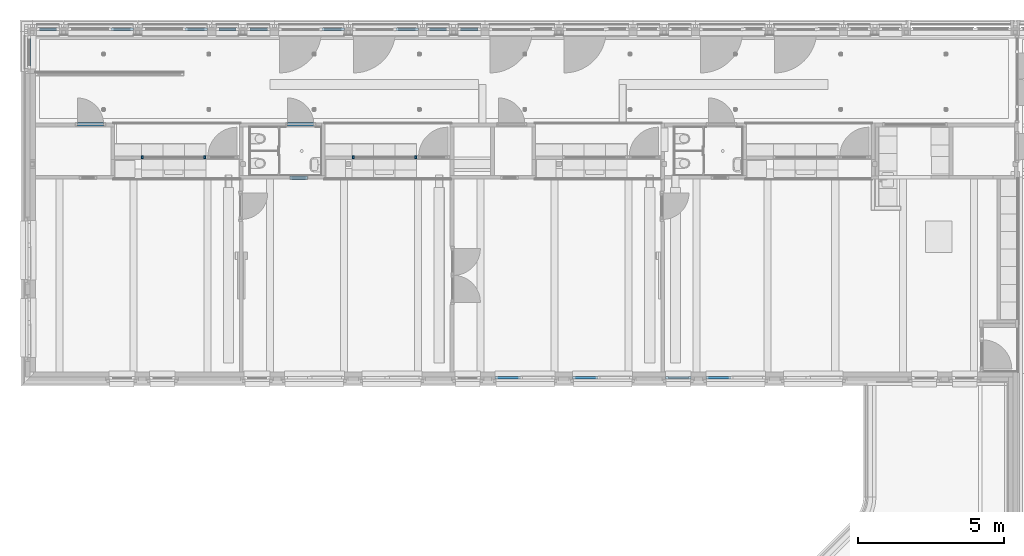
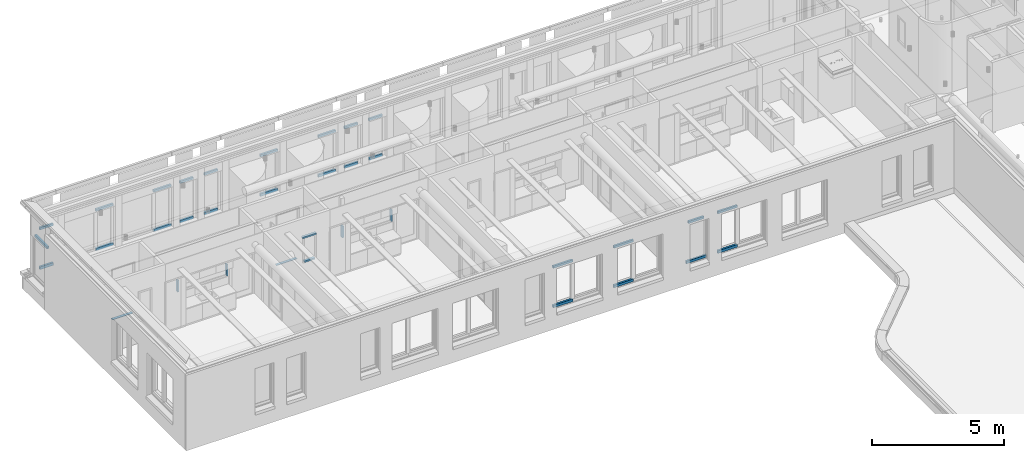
# One storey, part 28 of 128: 35 members, 19 elements without a shape of their own.
"""IFC2X3 building model written with IfcOpenShell, lengths in millimetres."""

from ifc_helpers import new_model, entity, si_unit, converted_unit, derived_unit, direction, frame, frame_2d, origin, origin_2d_with_axis, place, context, subcontext, project, spatial, rectangle, extrude, source, transform, mapped, material, type_object, type_shapes, element, aggregate, save


model = new_model("IFC2X3")

# Units and contexts
model_context = context("Model", 3, precision=0.01, world=origin(), true_north=direction((6.123031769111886e-17, 1.0)))
body_context = subcontext(model_context, "Body", "Model", "MODEL_VIEW")
ifc_project = project(units=[si_unit("LENGTHUNIT", "METRE", prefix="MILLI"), si_unit("AREAUNIT", "SQUARE_METRE"), si_unit("VOLUMEUNIT", "CUBIC_METRE"), converted_unit("PLANEANGLEUNIT", "DEGREE", entity("IfcRatioMeasure", 0.017453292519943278), si_unit("PLANEANGLEUNIT", "RADIAN"), dimensions=[0, 0, 0, 0, 0, 0, 0]), si_unit("MASSUNIT", "GRAM", prefix="KILO"), derived_unit("MASSDENSITYUNIT", [(si_unit("MASSUNIT", "GRAM", prefix="KILO"), 1), (si_unit("LENGTHUNIT", "METRE"), -3)]), derived_unit("IONCONCENTRATIONUNIT", [(si_unit("MASSUNIT", "GRAM", prefix="KILO"), 1), (si_unit("LENGTHUNIT", "METRE"), -3)]), derived_unit("MOMENTOFINERTIAUNIT", [(si_unit("LENGTHUNIT", "METRE"), 4)]), si_unit("TIMEUNIT", "SECOND"), si_unit("FREQUENCYUNIT", "HERTZ"), si_unit("THERMODYNAMICTEMPERATUREUNIT", "DEGREE_CELSIUS"), derived_unit("THERMALTRANSMITTANCEUNIT", [(si_unit("MASSUNIT", "GRAM", prefix="KILO"), 1), (si_unit("THERMODYNAMICTEMPERATUREUNIT", "KELVIN"), -1), (si_unit("TIMEUNIT", "SECOND"), -3)]), derived_unit("THERMALCONDUCTANCEUNIT", [(si_unit("MASSUNIT", "GRAM", prefix="KILO"), 1), (si_unit("THERMODYNAMICTEMPERATUREUNIT", "KELVIN"), -1), (si_unit("TIMEUNIT", "SECOND"), -3), (si_unit("LENGTHUNIT", "METRE"), 1)]), derived_unit("VOLUMETRICFLOWRATEUNIT", [(si_unit("LENGTHUNIT", "METRE"), 3), (si_unit("TIMEUNIT", "SECOND"), -1)]), derived_unit("MASSFLOWRATEUNIT", [(si_unit("MASSUNIT", "GRAM", prefix="KILO"), 1), (si_unit("TIMEUNIT", "SECOND"), -1)]), derived_unit("ROTATIONALFREQUENCYUNIT", [(si_unit("TIMEUNIT", "SECOND"), -1)]), si_unit("ELECTRICCURRENTUNIT", "AMPERE"), si_unit("ELECTRICVOLTAGEUNIT", "VOLT"), si_unit("POWERUNIT", "WATT"), si_unit("FORCEUNIT", "NEWTON", prefix="KILO"), si_unit("ILLUMINANCEUNIT", "LUX"), si_unit("LUMINOUSFLUXUNIT", "LUMEN"), si_unit("LUMINOUSINTENSITYUNIT", "CANDELA"), derived_unit("USERDEFINED", [(si_unit("MASSUNIT", "GRAM", prefix="KILO"), -1), (si_unit("LENGTHUNIT", "METRE"), -2), (si_unit("TIMEUNIT", "SECOND"), 3), (si_unit("LUMINOUSFLUXUNIT", "LUMEN"), 1)]), derived_unit("USERDEFINED", [(si_unit("MASSUNIT", "GRAM", prefix="KILO"), 1), (si_unit("TIMEUNIT", "SECOND"), -3), (si_unit("LENGTHUNIT", "METRE"), 3), (si_unit("ELECTRICCURRENTUNIT", "AMPERE"), -2)]), derived_unit("SOUNDPOWERUNIT", [(si_unit("MASSUNIT", "GRAM", prefix="KILO"), 1), (si_unit("TIMEUNIT", "SECOND"), -3), (si_unit("LENGTHUNIT", "METRE"), 2)]), derived_unit("SOUNDPRESSUREUNIT", [(si_unit("MASSUNIT", "GRAM", prefix="KILO"), 1), (si_unit("LENGTHUNIT", "METRE"), -1), (si_unit("TIMEUNIT", "SECOND"), -2)]), derived_unit("LINEARVELOCITYUNIT", [(si_unit("LENGTHUNIT", "METRE"), 1), (si_unit("TIMEUNIT", "SECOND"), -1)]), si_unit("PRESSUREUNIT", "PASCAL"), derived_unit("USERDEFINED", [(si_unit("MASSUNIT", "GRAM", prefix="KILO"), 1), (si_unit("LENGTHUNIT", "METRE"), -2), (si_unit("TIMEUNIT", "SECOND"), -2)]), derived_unit("LINEARFORCEUNIT", [(si_unit("MASSUNIT", "GRAM", prefix="KILO"), 1), (si_unit("TIMEUNIT", "SECOND"), -2)]), derived_unit("PLANARFORCEUNIT", [(si_unit("MASSUNIT", "GRAM", prefix="KILO"), 1), (si_unit("LENGTHUNIT", "METRE"), -1), (si_unit("TIMEUNIT", "SECOND"), -2)]), derived_unit("SPECIFICHEATCAPACITYUNIT", [(si_unit("THERMODYNAMICTEMPERATUREUNIT", "KELVIN"), -1), (si_unit("LENGTHUNIT", "METRE"), 2), (si_unit("TIMEUNIT", "SECOND"), -2)]), derived_unit("HEATINGVALUEUNIT", [(si_unit("LENGTHUNIT", "METRE"), 2), (si_unit("TIMEUNIT", "SECOND"), -2)]), derived_unit("VAPORPERMEABILITYUNIT", [(si_unit("LENGTHUNIT", "METRE"), -1), (si_unit("TIMEUNIT", "SECOND"), 1)]), derived_unit("DYNAMICVISCOSITYUNIT", [(si_unit("MASSUNIT", "GRAM", prefix="KILO"), 1), (si_unit("TIMEUNIT", "SECOND"), -1), (si_unit("LENGTHUNIT", "METRE"), -1)]), derived_unit("THERMALEXPANSIONCOEFFICIENTUNIT", [(si_unit("THERMODYNAMICTEMPERATUREUNIT", "KELVIN"), -1)]), derived_unit("MODULUSOFELASTICITYUNIT", [(si_unit("MASSUNIT", "GRAM", prefix="KILO"), 1), (si_unit("LENGTHUNIT", "METRE"), -1), (si_unit("TIMEUNIT", "SECOND"), -2)]), derived_unit("ISOTHERMALMOISTURECAPACITYUNIT", [(si_unit("LENGTHUNIT", "METRE"), 3), (si_unit("MASSUNIT", "GRAM", prefix="KILO"), -1)]), derived_unit("MOISTUREDIFFUSIVITYUNIT", [(si_unit("TIMEUNIT", "SECOND"), -1), (si_unit("LENGTHUNIT", "METRE"), 2)])], contexts=[model_context])

# Site, building, storey
site_placement = place(None, frame((0.0, 300.0, 0.0)))
site = spatial("IfcSite", under=ifc_project, at=site_placement, Name="<Kadastrale nummers>", CompositionType="ELEMENT")
building_placement = place(site_placement, origin())
building = spatial("IfcBuilding", under=site, at=building_placement, CompositionType="ELEMENT")
storey_placement = place(building_placement, frame((0.0, 0.0, 3560.0000331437)))
storey = spatial("IfcBuildingStorey", under=building, at=storey_placement, Name="01 eerste verdieping", CompositionType="ELEMENT", Elevation=3560.0000331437)

# Curtain wall, member
curtain_wall_type_1 = type_object("IfcCurtainWallType", Name="Curtain Wall:Merk H01", PredefinedType="NOTDEFINED")
curtain_wall_1_placement = place(storey_placement, frame((0.0, 0.0, -3560.0000331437)))
curtain_wall_1 = element("IfcCurtainWall", 1, at=curtain_wall_1_placement, inside=storey, type_object=curtain_wall_type_1, Name="Curtain Wall:Merk H01", ObjectType="Curtain Wall:Merk H01")
ifc_material_1 = material(Name="ISR_Kunststof_grijs")
member_type_1 = type_object("IfcMemberType", Name="Rectangular Mullion:31_CWM_020x114", PredefinedType="MULLION", material=ifc_material_1)
shared_shape_1 = source(origin(), body_context, "Body", "SweptSolid", [
    extrude(rectangle(XDim=113.99999999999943, YDim=20.0, at=origin_2d_with_axis()), frame((-10.0, 57.0, -900.0), z_axis=(0.0, 0.0, 1.0), x_axis=(0.0, -1.0, 0.0)), (0.0, 0.0, 1.0), 899.999999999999),
])
type_shapes(member_type_1, [shared_shape_1])
member_1_placement = place(curtain_wall_1_placement, frame((5433.0, 46606.0, 3650.00003501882), z_axis=(1.0, 0.0, 0.0), x_axis=(0.0, 0.0, -1.0)))
member_1 = element("IfcMember", 2, at=member_1_placement, type_object=member_type_1, material=ifc_material_1, Name="Rectangular Mullion:31_CWM_020x114", ObjectType="Rectangular Mullion:31_CWM_020x114", context=body_context, shape_type="MappedRepresentation", body=[
    mapped(shared_shape_1, transform((0.0, 0.0, 0.0), scale=1.0)),
])
aggregate(curtain_wall_1, [member_1])

curtain_wall_2_placement = place(storey_placement, frame((0.0, 0.0, -3560.0000331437)))
curtain_wall_2 = element("IfcCurtainWall", 3, at=curtain_wall_2_placement, inside=storey, type_object=curtain_wall_type_1, Name="Curtain Wall:Merk H01", ObjectType="Curtain Wall:Merk H01")
member_2_placement = place(curtain_wall_2_placement, frame((12619.001376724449, 46606.0, 3650.00003501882), z_axis=(1.0, 0.0, 0.0), x_axis=(0.0, 0.0, -1.0)))
member_2 = element("IfcMember", 4, at=member_2_placement, type_object=member_type_1, material=ifc_material_1, Name="Rectangular Mullion:31_CWM_020x114", ObjectType="Rectangular Mullion:31_CWM_020x114", context=body_context, shape_type="MappedRepresentation", body=[
    mapped(shared_shape_1, transform((0.0, 0.0, 0.0), scale=1.0)),
])
aggregate(curtain_wall_2, [member_2])

curtain_wall_type_2 = type_object("IfcCurtainWallType", Name="Curtain Wall:Merk H13", PredefinedType="NOTDEFINED")
curtain_wall_3_placement = place(storey_placement, frame((0.0, 0.0, -3560.0000331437)))
curtain_wall_3 = element("IfcCurtainWall", 5, at=curtain_wall_3_placement, inside=storey, type_object=curtain_wall_type_2, Name="Curtain Wall:Merk H13", ObjectType="Curtain Wall:Merk H13")
ifc_material_2 = material(Name="ISR_HPL")
member_type_2 = type_object("IfcMemberType", Name="Rectangular Mullion:31_CWM_067x114", PredefinedType="MULLION", material=ifc_material_2)
shared_shape_2 = source(origin(), body_context, "Body", "SweptSolid", [
    extrude(rectangle(XDim=113.99999999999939, YDim=67.0, at=origin_2d_with_axis()), frame((-33.5, -57.0, -533.0), z_axis=(0.0, 0.0, 1.0), x_axis=(0.0, -1.0, 0.0)), (0.0, 0.0, 1.0), 533.0000000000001),
])
type_shapes(member_type_2, [shared_shape_2])
member_3_placement = place(curtain_wall_3_placement, frame((8931.0, 45476.0, 4850.0000331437), z_axis=(0.0, 0.0, -1.0), x_axis=(1.0, 0.0, 0.0)))
member_3 = element("IfcMember", 6, at=member_3_placement, type_object=member_type_2, material=ifc_material_2, Name="Rectangular Mullion:31_CWM_067x114", ObjectType="Rectangular Mullion:31_CWM_067x114", context=body_context, shape_type="MappedRepresentation", body=[
    mapped(shared_shape_2, transform((0.0, 0.0, 0.0), scale=1.0)),
])

curtain_wall_4_placement = place(storey_placement, frame((0.0, 0.0, -3560.0000331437)))
curtain_wall_4 = element("IfcCurtainWall", 7, at=curtain_wall_4_placement, inside=storey, type_object=curtain_wall_type_2, Name="Curtain Wall:Merk H13", ObjectType="Curtain Wall:Merk H13")
member_4_placement = place(curtain_wall_4_placement, frame((16136.0, 45476.0, 4850.0000331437), z_axis=(0.0, 0.0, -1.0), x_axis=(1.0, 0.0, 0.0)))
member_4 = element("IfcMember", 8, at=member_4_placement, type_object=member_type_2, material=ifc_material_2, Name="Rectangular Mullion:31_CWM_067x114", ObjectType="Rectangular Mullion:31_CWM_067x114", context=body_context, shape_type="MappedRepresentation", body=[
    mapped(shared_shape_2, transform((0.0, 0.0, 0.0), scale=1.0)),
])

# Member
member_type_3 = type_object("IfcMemberType", Name="Rectangular Mullion:31_CWM_067x114", PredefinedType="MULLION", material=ifc_material_2)
shared_shape_3 = source(origin(), body_context, "Body", "SweptSolid", [
    extrude(rectangle(XDim=113.9999999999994, YDim=67.0, at=frame_2d((1.0658141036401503e-14, 0.0), x_axis=(1.0, 0.0))), frame((-33.5, -57.0, -533.0), z_axis=(0.0, 0.0, 1.0), x_axis=(0.0, -1.0, 0.0)), (0.0, 0.0, 1.0), 533.0000000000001),
])
type_shapes(member_type_3, [shared_shape_3])
member_5_placement = place(curtain_wall_3_placement, frame((6726.0, 45476.0, 5383.0000331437), z_axis=(0.0, 0.0, 1.0), x_axis=(-1.0, 0.0, 0.0)))
member_5 = element("IfcMember", 9, at=member_5_placement, type_object=member_type_3, material=ifc_material_2, Name="Rectangular Mullion:31_CWM_067x114", ObjectType="Rectangular Mullion:31_CWM_067x114", context=body_context, shape_type="MappedRepresentation", body=[
    mapped(shared_shape_3, transform((0.0, 0.0, 0.0), scale=1.0)),
])

aggregate(curtain_wall_3, [member_3, member_5])

member_6_placement = place(curtain_wall_4_placement, frame((13931.0, 45476.0, 5383.0000331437), z_axis=(0.0, 0.0, 1.0), x_axis=(-1.0, 0.0, 0.0)))
member_6 = element("IfcMember", 10, at=member_6_placement, type_object=member_type_3, material=ifc_material_2, Name="Rectangular Mullion:31_CWM_067x114", ObjectType="Rectangular Mullion:31_CWM_067x114", context=body_context, shape_type="MappedRepresentation", body=[
    mapped(shared_shape_3, transform((0.0, 0.0, 0.0), scale=1.0)),
])

aggregate(curtain_wall_4, [member_4, member_6])

# Curtain wall, members
curtain_wall_type_3 = type_object("IfcCurtainWallType", Name="Curtain Wall:Merk H05", PredefinedType="NOTDEFINED")
curtain_wall_5_placement = place(storey_placement, frame((0.0, 0.0, -3560.0000331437)))
curtain_wall_5 = element("IfcCurtainWall", 11, at=curtain_wall_5_placement, inside=storey, type_object=curtain_wall_type_3, Name="Curtain Wall:Merk H05", ObjectType="Curtain Wall:Merk H05")
member_type_4 = type_object("IfcMemberType", Name="Rectangular Mullion:31_CWM_067x114", PredefinedType="MULLION", material=ifc_material_2)
shared_shape_4 = source(origin(), body_context, "Body", "SweptSolid", [
    extrude(rectangle(XDim=113.9999999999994, YDim=67.0, at=frame_2d((1.0658141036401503e-14, 0.0), x_axis=(1.0, 0.0))), frame((-33.5, -57.0, -600.0), z_axis=(0.0, 0.0, 1.0), x_axis=(0.0, -1.0, 0.0)), (0.0, 0.0, 1.0), 600.0000000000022),
])
type_shapes(member_type_4, [shared_shape_4])
member_7_placement = place(curtain_wall_5_placement, frame((11805.0, 44889.0, 6040.0000331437), z_axis=(-1.0, 0.0, 0.0), x_axis=(0.0, 0.0, 1.0)))
member_7 = element("IfcMember", 12, at=member_7_placement, type_object=member_type_4, material=ifc_material_2, Name="Rectangular Mullion:31_CWM_067x114", ObjectType="Rectangular Mullion:31_CWM_067x114", context=body_context, shape_type="MappedRepresentation", body=[
    mapped(shared_shape_4, transform((0.0, 0.0, 0.0), scale=1.0)),
])
member_type_5 = type_object("IfcMemberType", Name="Rectangular Mullion:31_CWM_067x114", PredefinedType="MULLION", material=ifc_material_2)
shared_shape_5 = source(origin(), body_context, "Body", "SweptSolid", [
    extrude(rectangle(XDim=113.9999999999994, YDim=67.0, at=frame_2d((1.0658141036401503e-14, 0.0), x_axis=(1.0, 0.0))), frame((-33.5, -57.0, -466.0), z_axis=(0.0, 0.0, 1.0), x_axis=(0.0, -1.0, 0.0)), (0.0, 0.0, 1.0), 466.0000000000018),
])
type_shapes(member_type_5, [shared_shape_5])
member_8_placement = place(curtain_wall_5_placement, frame((12338.0, 44889.0, 4850.0000331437), z_axis=(1.0, 0.0, 0.0), x_axis=(0.0, 0.0, -1.0)))
member_8 = element("IfcMember", 13, at=member_8_placement, type_object=member_type_5, material=ifc_material_2, Name="Rectangular Mullion:31_CWM_067x114", ObjectType="Rectangular Mullion:31_CWM_067x114", context=body_context, shape_type="MappedRepresentation", body=[
    mapped(shared_shape_5, transform((0.0, 0.0, 0.0), scale=1.0)),
])
aggregate(curtain_wall_5, [member_7, member_8])

# Curtain wall, member
curtain_wall_type_4 = type_object("IfcCurtainWallType", Name="Curtain Wall:K_29", PredefinedType="NOTDEFINED")
curtain_wall_6_placement = place(storey_placement, frame((0.0, 0.0, -3560.0000331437)))
curtain_wall_6 = element("IfcCurtainWall", 14, at=curtain_wall_6_placement, inside=storey, type_object=curtain_wall_type_4, Name="Curtain Wall:K_29", ObjectType="Curtain Wall:K_29")
ifc_material_3 = material(Name="ISR_Kunststof_RAL7006")
member_type_6 = type_object("IfcMemberType", Name="Rectangular Mullion:100x83 Gealan Kubus", PredefinedType="MULLION", material=ifc_material_3)
shared_shape_6 = source(origin(), body_context, "Body", "SweptSolid", [
    extrude(rectangle(XDim=83.0, YDim=100.0, at=origin_2d_with_axis()), frame((-50.0, 41.5, -590.0), z_axis=(0.0, 0.0, 1.0), x_axis=(0.0, -1.0, 0.0)), (0.0, 0.0, 1.0), 590.0000000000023),
])
type_shapes(member_type_6, [shared_shape_6])
member_9_placement = place(curtain_wall_6_placement, frame((3240.0, 49868.0, 6390.0), z_axis=(-1.0, 0.0, 0.0), x_axis=(0.0, 0.0, 1.0)))
member_9 = element("IfcMember", 15, at=member_9_placement, type_object=member_type_6, material=ifc_material_3, Name="Rectangular Mullion:100x83 Gealan Kubus", ObjectType="Rectangular Mullion:100x83 Gealan Kubus", context=body_context, shape_type="MappedRepresentation", body=[
    mapped(shared_shape_6, transform((0.0, 0.0, 0.0), scale=1.0)),
])

curtain_wall_7_placement = place(storey_placement, frame((0.0, 0.0, -3560.0000331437)))
curtain_wall_7 = element("IfcCurtainWall", 16, at=curtain_wall_7_placement, inside=storey, type_object=curtain_wall_type_4, Name="Curtain Wall:K_29", ObjectType="Curtain Wall:K_29")
member_10_placement = place(curtain_wall_7_placement, frame((17640.0, 49868.0, 6390.0), z_axis=(-1.0, 0.0, 0.0), x_axis=(0.0, 0.0, 1.0)))
member_10 = element("IfcMember", 17, at=member_10_placement, type_object=member_type_6, material=ifc_material_3, Name="Rectangular Mullion:100x83 Gealan Kubus", ObjectType="Rectangular Mullion:100x83 Gealan Kubus", context=body_context, shape_type="MappedRepresentation", body=[
    mapped(shared_shape_6, transform((0.0, 0.0, 0.0), scale=1.0)),
])

curtain_wall_8_placement = place(storey_placement, frame((0.0, 0.0, -3560.0000331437)))
curtain_wall_8 = element("IfcCurtainWall", 18, at=curtain_wall_8_placement, inside=storey, type_object=curtain_wall_type_4, Name="Curtain Wall:K_29", ObjectType="Curtain Wall:K_29")
member_11_placement = place(curtain_wall_8_placement, frame((16570.0, 49868.0, 6390.0), z_axis=(-1.0, 0.0, 0.0), x_axis=(0.0, 0.0, 1.0)))
member_11 = element("IfcMember", 19, at=member_11_placement, type_object=member_type_6, material=ifc_material_3, Name="Rectangular Mullion:100x83 Gealan Kubus", ObjectType="Rectangular Mullion:100x83 Gealan Kubus", context=body_context, shape_type="MappedRepresentation", body=[
    mapped(shared_shape_6, transform((0.0, 0.0, 0.0), scale=1.0)),
])

curtain_wall_9_placement = place(storey_placement, frame((0.0, 0.0, -3560.0000331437)))
curtain_wall_9 = element("IfcCurtainWall", 20, at=curtain_wall_9_placement, inside=storey, type_object=curtain_wall_type_4, Name="Curtain Wall:K_29", ObjectType="Curtain Wall:K_29")
member_12_placement = place(curtain_wall_9_placement, frame((10440.0, 49868.0, 6390.0), z_axis=(-1.0, 0.0, 0.0), x_axis=(0.0, 0.0, 1.0)))
member_12 = element("IfcMember", 21, at=member_12_placement, type_object=member_type_6, material=ifc_material_3, Name="Rectangular Mullion:100x83 Gealan Kubus", ObjectType="Rectangular Mullion:100x83 Gealan Kubus", context=body_context, shape_type="MappedRepresentation", body=[
    mapped(shared_shape_6, transform((0.0, 0.0, 0.0), scale=1.0)),
])

curtain_wall_10_placement = place(storey_placement, frame((0.0, 0.0, -3560.0000331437)))
curtain_wall_10 = element("IfcCurtainWall", 22, at=curtain_wall_10_placement, inside=storey, type_object=curtain_wall_type_4, Name="Curtain Wall:K_29", ObjectType="Curtain Wall:K_29")
member_13_placement = place(curtain_wall_10_placement, frame((9370.0, 49868.0, 6390.0), z_axis=(-1.0, 0.0, 0.0), x_axis=(0.0, 0.0, 1.0)))
member_13 = element("IfcMember", 23, at=member_13_placement, type_object=member_type_6, material=ifc_material_3, Name="Rectangular Mullion:100x83 Gealan Kubus", ObjectType="Rectangular Mullion:100x83 Gealan Kubus", context=body_context, shape_type="MappedRepresentation", body=[
    mapped(shared_shape_6, transform((0.0, 0.0, 0.0), scale=1.0)),
])

# Member
member_type_7 = type_object("IfcMemberType", Name="Rectangular Mullion:120x83 Gealan Kubus", PredefinedType="MULLION", material=ifc_material_3)
shared_shape_7 = source(origin(), body_context, "Body", "SweptSolid", [
    extrude(rectangle(XDim=83.00000000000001, YDim=120.0, at=origin_2d_with_axis()), frame((-60.0, 41.50000000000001, -590.0), z_axis=(0.0, 0.0, 1.0), x_axis=(0.0, -1.0, 0.0)), (0.0, 0.0, 1.0), 590.0000000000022),
])
type_shapes(member_type_7, [shared_shape_7])
member_14_placement = place(curtain_wall_6_placement, frame((3830.0, 49868.0, 4460.000035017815), z_axis=(1.0, 0.0, 0.0), x_axis=(0.0, 0.0, -1.0)))
member_14 = element("IfcMember", 24, at=member_14_placement, type_object=member_type_7, material=ifc_material_3, Name="Rectangular Mullion:120x83 Gealan Kubus", ObjectType="Rectangular Mullion:120x83 Gealan Kubus", context=body_context, shape_type="MappedRepresentation", body=[
    mapped(shared_shape_7, transform((0.0, 0.0, 0.0), scale=1.0)),
])

aggregate(curtain_wall_6, [member_9, member_14])

member_15_placement = place(curtain_wall_7_placement, frame((18230.0, 49868.0, 4460.000035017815), z_axis=(1.0, 0.0, 0.0), x_axis=(0.0, 0.0, -1.0)))
member_15 = element("IfcMember", 25, at=member_15_placement, type_object=member_type_7, material=ifc_material_3, Name="Rectangular Mullion:120x83 Gealan Kubus", ObjectType="Rectangular Mullion:120x83 Gealan Kubus", context=body_context, shape_type="MappedRepresentation", body=[
    mapped(shared_shape_7, transform((0.0, 0.0, 0.0), scale=1.0)),
])

aggregate(curtain_wall_7, [member_10, member_15])

member_16_placement = place(curtain_wall_8_placement, frame((17160.0, 49868.0, 4460.000035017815), z_axis=(1.0, 0.0, 0.0), x_axis=(0.0, 0.0, -1.0)))
member_16 = element("IfcMember", 26, at=member_16_placement, type_object=member_type_7, material=ifc_material_3, Name="Rectangular Mullion:120x83 Gealan Kubus", ObjectType="Rectangular Mullion:120x83 Gealan Kubus", context=body_context, shape_type="MappedRepresentation", body=[
    mapped(shared_shape_7, transform((0.0, 0.0, 0.0), scale=1.0)),
])

aggregate(curtain_wall_8, [member_11, member_16])

member_17_placement = place(curtain_wall_9_placement, frame((11030.0, 49868.0, 4460.000035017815), z_axis=(1.0, 0.0, 0.0), x_axis=(0.0, 0.0, -1.0)))
member_17 = element("IfcMember", 27, at=member_17_placement, type_object=member_type_7, material=ifc_material_3, Name="Rectangular Mullion:120x83 Gealan Kubus", ObjectType="Rectangular Mullion:120x83 Gealan Kubus", context=body_context, shape_type="MappedRepresentation", body=[
    mapped(shared_shape_7, transform((0.0, 0.0, 0.0), scale=1.0)),
])

aggregate(curtain_wall_9, [member_12, member_17])

member_18_placement = place(curtain_wall_10_placement, frame((9960.0, 49868.0, 4460.000035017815), z_axis=(1.0, 0.0, 0.0), x_axis=(0.0, 0.0, -1.0)))
member_18 = element("IfcMember", 28, at=member_18_placement, type_object=member_type_7, material=ifc_material_3, Name="Rectangular Mullion:120x83 Gealan Kubus", ObjectType="Rectangular Mullion:120x83 Gealan Kubus", context=body_context, shape_type="MappedRepresentation", body=[
    mapped(shared_shape_7, transform((0.0, 0.0, 0.0), scale=1.0)),
])

aggregate(curtain_wall_10, [member_13, member_18])

# Curtain wall, member
curtain_wall_type_5 = type_object("IfcCurtainWallType", Name="Curtain Wall:K_25", PredefinedType="NOTDEFINED")
curtain_wall_11_placement = place(storey_placement, frame((0.0, 0.0, -3560.0000331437)))
curtain_wall_11 = element("IfcCurtainWall", 29, at=curtain_wall_11_placement, inside=storey, type_object=curtain_wall_type_5, Name="Curtain Wall:K_25", ObjectType="Curtain Wall:K_25")
member_type_8 = type_object("IfcMemberType", Name="Rectangular Mullion:100x83 Gealan Kubus", PredefinedType="MULLION", material=ifc_material_3)
shared_shape_8 = source(origin(), body_context, "Body", "SweptSolid", [
    extrude(rectangle(XDim=83.0, YDim=100.0, at=origin_2d_with_axis()), frame((-50.0, -41.5, -945.0), z_axis=(0.0, 0.0, 1.0), x_axis=(0.0, -1.0, 0.0)), (0.0, 0.0, 1.0), 944.9999999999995),
])
type_shapes(member_type_8, [shared_shape_8])
member_19_placement = place(curtain_wall_11_placement, frame((2931.9986232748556, 49590.0, 6390.0), z_axis=(0.0, 1.0, 0.0), x_axis=(0.0, 0.0, 1.0)))
member_19 = element("IfcMember", 30, at=member_19_placement, type_object=member_type_8, material=ifc_material_3, Name="Rectangular Mullion:100x83 Gealan Kubus", ObjectType="Rectangular Mullion:100x83 Gealan Kubus", context=body_context, shape_type="MappedRepresentation", body=[
    mapped(shared_shape_8, transform((0.0, 0.0, 0.0), scale=1.0)),
])
aggregate(curtain_wall_11, [member_19])

curtain_wall_type_6 = type_object("IfcCurtainWallType", Name="Curtain Wall:K_22", PredefinedType="NOTDEFINED")
curtain_wall_12_placement = place(storey_placement, frame((0.0, 0.0, -3560.0000331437)))
curtain_wall_12 = element("IfcCurtainWall", 31, at=curtain_wall_12_placement, inside=storey, type_object=curtain_wall_type_6, Name="Curtain Wall:K_22", ObjectType="Curtain Wall:K_22")
member_type_9 = type_object("IfcMemberType", Name="Rectangular Mullion:120x83 Gealan Kubus", PredefinedType="MULLION", material=ifc_material_3)
shared_shape_9 = source(origin(), body_context, "Body", "SweptSolid", [
    extrude(rectangle(XDim=83.00000000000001, YDim=120.0, at=origin_2d_with_axis()), frame((-60.0, 41.50000000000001, -767.0), z_axis=(0.0, 0.0, 1.0), x_axis=(0.0, -1.0, 0.0)), (0.0, 0.0, 1.0), 766.9999999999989),
])
type_shapes(member_type_9, [shared_shape_9])
member_20_placement = place(curtain_wall_12_placement, frame((16190.0, 49868.0, 4460.000035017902), z_axis=(1.0, 0.0, 0.0), x_axis=(0.0, 0.0, -1.0)))
member_20 = element("IfcMember", 32, at=member_20_placement, type_object=member_type_9, material=ifc_material_3, Name="Rectangular Mullion:120x83 Gealan Kubus", ObjectType="Rectangular Mullion:120x83 Gealan Kubus", context=body_context, shape_type="MappedRepresentation", body=[
    mapped(shared_shape_9, transform((0.0, 0.0, 0.0), scale=1.0)),
])

curtain_wall_13_placement = place(storey_placement, frame((0.0, 0.0, -3560.0000331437)))
curtain_wall_13 = element("IfcCurtainWall", 33, at=curtain_wall_13_placement, inside=storey, type_object=curtain_wall_type_6, Name="Curtain Wall:K_22", ObjectType="Curtain Wall:K_22")
member_21_placement = place(curtain_wall_13_placement, frame((13660.0, 49868.0, 4460.000035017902), z_axis=(1.0, 0.0, 0.0), x_axis=(0.0, 0.0, -1.0)))
member_21 = element("IfcMember", 34, at=member_21_placement, type_object=member_type_9, material=ifc_material_3, Name="Rectangular Mullion:120x83 Gealan Kubus", ObjectType="Rectangular Mullion:120x83 Gealan Kubus", context=body_context, shape_type="MappedRepresentation", body=[
    mapped(shared_shape_9, transform((0.0, 0.0, 0.0), scale=1.0)),
])

curtain_wall_type_7 = type_object("IfcCurtainWallType", Name="Curtain Wall:K_32", PredefinedType="NOTDEFINED")
curtain_wall_14_placement = place(storey_placement, frame((0.0, 0.0, -3560.0000331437)))
curtain_wall_14 = element("IfcCurtainWall", 35, at=curtain_wall_14_placement, inside=storey, type_object=curtain_wall_type_7, Name="Curtain Wall:K_32", ObjectType="Curtain Wall:K_32")
member_22_placement = place(curtain_wall_14_placement, frame((6460.0, 49868.0, 4460.000035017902), z_axis=(1.0, 0.0, 0.0), x_axis=(0.0, 0.0, -1.0)))
member_22 = element("IfcMember", 36, at=member_22_placement, type_object=member_type_9, material=ifc_material_3, Name="Rectangular Mullion:120x83 Gealan Kubus", ObjectType="Rectangular Mullion:120x83 Gealan Kubus", context=body_context, shape_type="MappedRepresentation", body=[
    mapped(shared_shape_9, transform((0.0, 0.0, 0.0), scale=1.0)),
])

curtain_wall_15_placement = place(storey_placement, frame((0.0, 0.0, -3560.0000331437)))
curtain_wall_15 = element("IfcCurtainWall", 37, at=curtain_wall_15_placement, inside=storey, type_object=curtain_wall_type_7, Name="Curtain Wall:K_32", ObjectType="Curtain Wall:K_32")
member_23_placement = place(curtain_wall_15_placement, frame((8990.0, 49868.0, 4460.000035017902), z_axis=(1.0, 0.0, 0.0), x_axis=(0.0, 0.0, -1.0)))
member_23 = element("IfcMember", 38, at=member_23_placement, type_object=member_type_9, material=ifc_material_3, Name="Rectangular Mullion:120x83 Gealan Kubus", ObjectType="Rectangular Mullion:120x83 Gealan Kubus", context=body_context, shape_type="MappedRepresentation", body=[
    mapped(shared_shape_9, transform((0.0, 0.0, 0.0), scale=1.0)),
])

# Member
member_type_10 = type_object("IfcMemberType", Name="Rectangular Mullion:100x83 Gealan Kubus", PredefinedType="MULLION", material=ifc_material_3)
shared_shape_10 = source(origin(), body_context, "Body", "SweptSolid", [
    extrude(rectangle(XDim=83.0, YDim=100.0, at=origin_2d_with_axis()), frame((-50.0, 41.5, -767.0), z_axis=(0.0, 0.0, 1.0), x_axis=(0.0, -1.0, 0.0)), (0.0, 0.0, 1.0), 766.9999999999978),
])
type_shapes(member_type_10, [shared_shape_10])
member_24_placement = place(curtain_wall_12_placement, frame((15423.0, 49868.0, 6390.0), z_axis=(-1.0, 0.0, 0.0), x_axis=(0.0, 0.0, 1.0)))
member_24 = element("IfcMember", 39, at=member_24_placement, type_object=member_type_10, material=ifc_material_3, Name="Rectangular Mullion:100x83 Gealan Kubus", ObjectType="Rectangular Mullion:100x83 Gealan Kubus", context=body_context, shape_type="MappedRepresentation", body=[
    mapped(shared_shape_10, transform((0.0, 0.0, 0.0), scale=1.0)),
])

aggregate(curtain_wall_12, [member_20, member_24])

member_25_placement = place(curtain_wall_13_placement, frame((12893.0, 49868.0, 6390.0), z_axis=(-1.0, 0.0, 0.0), x_axis=(0.0, 0.0, 1.0)))
member_25 = element("IfcMember", 40, at=member_25_placement, type_object=member_type_10, material=ifc_material_3, Name="Rectangular Mullion:100x83 Gealan Kubus", ObjectType="Rectangular Mullion:100x83 Gealan Kubus", context=body_context, shape_type="MappedRepresentation", body=[
    mapped(shared_shape_10, transform((0.0, 0.0, 0.0), scale=1.0)),
])

aggregate(curtain_wall_13, [member_21, member_25])

member_26_placement = place(curtain_wall_14_placement, frame((5693.0, 49868.0, 6390.0), z_axis=(-1.0, 0.0, 0.0), x_axis=(0.0, 0.0, 1.0)))
member_26 = element("IfcMember", 41, at=member_26_placement, type_object=member_type_10, material=ifc_material_3, Name="Rectangular Mullion:100x83 Gealan Kubus", ObjectType="Rectangular Mullion:100x83 Gealan Kubus", context=body_context, shape_type="MappedRepresentation", body=[
    mapped(shared_shape_10, transform((0.0, 0.0, 0.0), scale=1.0)),
])

aggregate(curtain_wall_14, [member_22, member_26])

member_27_placement = place(curtain_wall_15_placement, frame((8223.0, 49868.0, 6390.0), z_axis=(-1.0, 0.0, 0.0), x_axis=(0.0, 0.0, 1.0)))
member_27 = element("IfcMember", 42, at=member_27_placement, type_object=member_type_10, material=ifc_material_3, Name="Rectangular Mullion:100x83 Gealan Kubus", ObjectType="Rectangular Mullion:100x83 Gealan Kubus", context=body_context, shape_type="MappedRepresentation", body=[
    mapped(shared_shape_10, transform((0.0, 0.0, 0.0), scale=1.0)),
])

aggregate(curtain_wall_15, [member_23, member_27])

# Curtain wall, member
curtain_wall_type_8 = type_object("IfcCurtainWallType", Name="Curtain Wall:K_24", PredefinedType="NOTDEFINED")
curtain_wall_16_placement = place(storey_placement, frame((0.0, 0.0, -3560.0000331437)))
curtain_wall_16 = element("IfcCurtainWall", 43, at=curtain_wall_16_placement, inside=storey, type_object=curtain_wall_type_8, Name="Curtain Wall:K_24", ObjectType="Curtain Wall:K_24")
member_type_11 = type_object("IfcMemberType", Name="Rectangular Mullion:120x83 Gealan Kubus", PredefinedType="MULLION", material=ifc_material_3)
shared_shape_11 = source(origin(), body_context, "Body", "SweptSolid", [
    extrude(rectangle(XDim=83.00000000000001, YDim=120.0, at=origin_2d_with_axis()), frame((-60.0, 41.50000000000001, -857.0), z_axis=(0.0, 0.0, 1.0), x_axis=(0.0, -1.0, 0.0)), (0.0, 0.0, 1.0), 857.0),
])
type_shapes(member_type_11, [shared_shape_11])
member_28_placement = place(curtain_wall_16_placement, frame((21470.0, 38031.998623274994, 4460.000035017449), z_axis=(-1.0, 0.0, 0.0), x_axis=(0.0, 0.0, -1.0)))
member_28 = element("IfcMember", 44, at=member_28_placement, type_object=member_type_11, material=ifc_material_3, Name="Rectangular Mullion:120x83 Gealan Kubus", ObjectType="Rectangular Mullion:120x83 Gealan Kubus", context=body_context, shape_type="MappedRepresentation", body=[
    mapped(shared_shape_11, transform((0.0, 0.0, 0.0), scale=1.0)),
])

curtain_wall_17_placement = place(storey_placement, frame((0.0, 0.0, -3560.0000331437)))
curtain_wall_17 = element("IfcCurtainWall", 45, at=curtain_wall_17_placement, inside=storey, type_object=curtain_wall_type_8, Name="Curtain Wall:K_24", ObjectType="Curtain Wall:K_24")
member_29_placement = place(curtain_wall_17_placement, frame((18820.0, 38031.998623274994, 4460.000035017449), z_axis=(-1.0, 0.0, 0.0), x_axis=(0.0, 0.0, -1.0)))
member_29 = element("IfcMember", 46, at=member_29_placement, type_object=member_type_11, material=ifc_material_3, Name="Rectangular Mullion:120x83 Gealan Kubus", ObjectType="Rectangular Mullion:120x83 Gealan Kubus", context=body_context, shape_type="MappedRepresentation", body=[
    mapped(shared_shape_11, transform((0.0, 0.0, 0.0), scale=1.0)),
])

curtain_wall_18_placement = place(storey_placement, frame((0.0, 0.0, -3560.0000331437)))
curtain_wall_18 = element("IfcCurtainWall", 47, at=curtain_wall_18_placement, inside=storey, type_object=curtain_wall_type_8, Name="Curtain Wall:K_24", ObjectType="Curtain Wall:K_24")
member_30_placement = place(curtain_wall_18_placement, frame((26020.0, 38031.99862327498, 4460.000035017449), z_axis=(-1.0, 0.0, 0.0), x_axis=(0.0, 0.0, -1.0)))
member_30 = element("IfcMember", 48, at=member_30_placement, type_object=member_type_11, material=ifc_material_3, Name="Rectangular Mullion:120x83 Gealan Kubus", ObjectType="Rectangular Mullion:120x83 Gealan Kubus", context=body_context, shape_type="MappedRepresentation", body=[
    mapped(shared_shape_11, transform((0.0, 0.0, 0.0), scale=1.0)),
])

# Member
member_type_12 = type_object("IfcMemberType", Name="Rectangular Mullion:100x83 Gealan Kubus", PredefinedType="MULLION", material=ifc_material_3)
shared_shape_12 = source(origin(), body_context, "Body", "SweptSolid", [
    extrude(rectangle(XDim=83.0, YDim=100.0, at=origin_2d_with_axis()), frame((-50.0, 41.5, -857.0), z_axis=(0.0, 0.0, 1.0), x_axis=(0.0, -1.0, 0.0)), (0.0, 0.0, 1.0), 857.0000000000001),
])
type_shapes(member_type_12, [shared_shape_12])
member_31_placement = place(curtain_wall_16_placement, frame((22327.0, 38031.99862327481, 6390.000035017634), z_axis=(1.0, 0.0, 0.0), x_axis=(0.0, 0.0, 1.0)))
member_31 = element("IfcMember", 49, at=member_31_placement, type_object=member_type_12, material=ifc_material_3, Name="Rectangular Mullion:100x83 Gealan Kubus", ObjectType="Rectangular Mullion:100x83 Gealan Kubus", context=body_context, shape_type="MappedRepresentation", body=[
    mapped(shared_shape_12, transform((0.0, 0.0, 0.0), scale=1.0)),
])

aggregate(curtain_wall_16, [member_28, member_31])

member_32_placement = place(curtain_wall_17_placement, frame((19677.0, 38031.99862327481, 6390.000035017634), z_axis=(1.0, 0.0, 0.0), x_axis=(0.0, 0.0, 1.0)))
member_32 = element("IfcMember", 50, at=member_32_placement, type_object=member_type_12, material=ifc_material_3, Name="Rectangular Mullion:100x83 Gealan Kubus", ObjectType="Rectangular Mullion:100x83 Gealan Kubus", context=body_context, shape_type="MappedRepresentation", body=[
    mapped(shared_shape_12, transform((0.0, 0.0, 0.0), scale=1.0)),
])

aggregate(curtain_wall_17, [member_29, member_32])

member_33_placement = place(curtain_wall_18_placement, frame((26877.0, 38031.9986232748, 6390.000035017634), z_axis=(1.0, 0.0, 0.0), x_axis=(0.0, 0.0, 1.0)))
member_33 = element("IfcMember", 51, at=member_33_placement, type_object=member_type_12, material=ifc_material_3, Name="Rectangular Mullion:100x83 Gealan Kubus", ObjectType="Rectangular Mullion:100x83 Gealan Kubus", context=body_context, shape_type="MappedRepresentation", body=[
    mapped(shared_shape_12, transform((0.0, 0.0, 0.0), scale=1.0)),
])

aggregate(curtain_wall_18, [member_30, member_33])

# Curtain wall, members
curtain_wall_type_9 = type_object("IfcCurtainWallType", Name="Curtain Wall:K_28", PredefinedType="NOTDEFINED")
curtain_wall_19_placement = place(storey_placement, frame((0.0, 0.0, -3560.0000331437)))
curtain_wall_19 = element("IfcCurtainWall", 52, at=curtain_wall_19_placement, inside=storey, type_object=curtain_wall_type_9, Name="Curtain Wall:K_28", ObjectType="Curtain Wall:K_28")
member_type_13 = type_object("IfcMemberType", Name="Rectangular Mullion:100x83 Gealan Kubus", PredefinedType="MULLION", material=ifc_material_3)
shared_shape_13 = source(origin(), body_context, "Body", "SweptSolid", [
    extrude(rectangle(XDim=83.00000000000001, YDim=100.0, at=origin_2d_with_axis()), frame((-50.0, 41.50000000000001, -680.0), z_axis=(0.0, 0.0, 1.0), x_axis=(0.0, -1.0, 0.0)), (0.0, 0.0, 1.0), 679.9999999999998),
])
type_shapes(member_type_13, [shared_shape_13])
member_34_placement = place(curtain_wall_19_placement, frame((25420.0, 38032.0, 6390.00003501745), z_axis=(1.0, 0.0, 0.0), x_axis=(0.0, 0.0, 1.0)))
member_34 = element("IfcMember", 53, at=member_34_placement, type_object=member_type_13, material=ifc_material_3, Name="Rectangular Mullion:100x83 Gealan Kubus", ObjectType="Rectangular Mullion:100x83 Gealan Kubus", context=body_context, shape_type="MappedRepresentation", body=[
    mapped(shared_shape_13, transform((0.0, 0.0, 0.0), scale=1.0)),
])
member_type_14 = type_object("IfcMemberType", Name="Rectangular Mullion:120x83 Gealan Kubus", PredefinedType="MULLION", material=ifc_material_3)
shared_shape_14 = source(origin(), body_context, "Body", "SweptSolid", [
    extrude(rectangle(XDim=82.99999999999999, YDim=120.0, at=origin_2d_with_axis()), frame((-60.0, 41.49999999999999, -880.0), z_axis=(0.0, 0.0, 1.0), x_axis=(0.0, -1.0, 0.0)), (0.0, 0.0, 1.0), 879.9999999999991),
])
type_shapes(member_type_14, [shared_shape_14])
member_35_placement = place(curtain_wall_19_placement, frame((24640.0, 38032.0, 4460.000035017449), z_axis=(-1.0, 0.0, 0.0), x_axis=(0.0, 0.0, -1.0)))
member_35 = element("IfcMember", 54, at=member_35_placement, type_object=member_type_14, material=ifc_material_3, Name="Rectangular Mullion:120x83 Gealan Kubus", ObjectType="Rectangular Mullion:120x83 Gealan Kubus", context=body_context, shape_type="MappedRepresentation", body=[
    mapped(shared_shape_14, transform((0.0, 0.0, 0.0), scale=1.0)),
])
aggregate(curtain_wall_19, [member_34, member_35])

save(model, "model.ifc")
